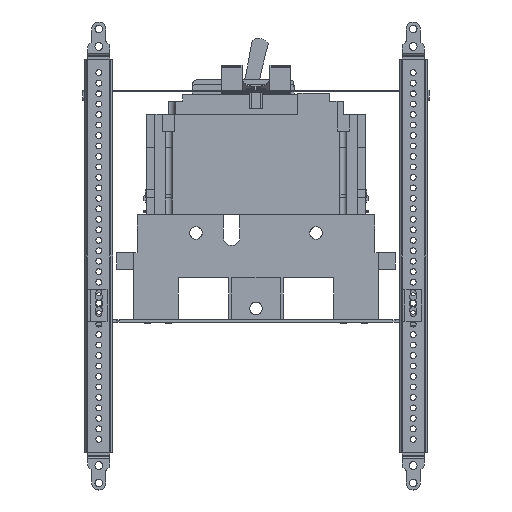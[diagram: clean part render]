
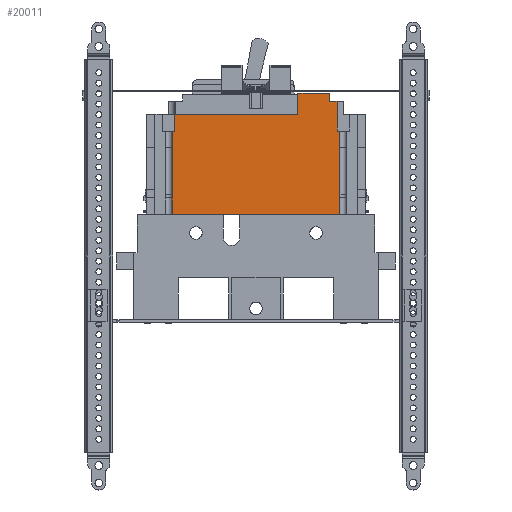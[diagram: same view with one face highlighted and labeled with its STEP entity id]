
A CAD part, left-side view. The second image highlights one B-rep face of the part: STEP entity #20011.
In plain terms, the highlighted planar face has unit normal (-1, 0, 0).
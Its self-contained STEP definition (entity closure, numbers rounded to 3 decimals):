
#9736=CARTESIAN_POINT(' ',(-214.311,-53.177,9.353));
#9737=VERTEX_POINT(' ',#9736);
#9751=CARTESIAN_POINT(' ',(-214.311,-53.177,9.353));
#9756=DIRECTION(' ',(0.,1.,0.));
#9761=VECTOR(' ',#9756,1.);
#9766=LINE('',#9751,#9761);
#9771=CARTESIAN_POINT(' ',(-214.311,59.243,9.353));
#9772=VERTEX_POINT(' ',#9771);
#9776=EDGE_CURVE(' ',#9737,#9772,#9766,.T.);
#11271=CARTESIAN_POINT(' ',(-214.311,62.945,9.853));
#11276=DIRECTION(' ',(0.,-1.,0.));
#11281=VECTOR(' ',#11276,1.);
#11286=LINE('',#11271,#11281);
#11291=CARTESIAN_POINT(' ',(-214.311,62.945,9.853));
#11292=VERTEX_POINT(' ',#11291);
#11296=CARTESIAN_POINT(' ',(-214.311,59.243,9.853));
#11297=VERTEX_POINT(' ',#11296);
#11301=EDGE_CURVE(' ',#11292,#11297,#11286,.T.);
#19426=CARTESIAN_POINT(' ',(-214.311,-53.177,9.353));
#19431=DIRECTION(' ',(0.,0.,1.));
#19436=VECTOR(' ',#19431,1.);
#19441=LINE('',#19426,#19436);
#19446=CARTESIAN_POINT(' ',(-214.311,-53.177,9.853));
#19447=VERTEX_POINT(' ',#19446);
#19451=EDGE_CURVE(' ',#9737,#19447,#19441,.T.);
#19516=DIRECTION(' ',(-1.,0.,0.));
#19521=CARTESIAN_POINT(' ',(-214.311,-56.879,9.353));
#19526=DIRECTION(' ',(0.,-0.,1.));
#19531=AXIS2_PLACEMENT_3D(' ',#19521,#19516,#19526);
#19536=PLANE('NONE',#19531);
#19541=CARTESIAN_POINT(' ',(-214.311,-56.879,69.284));
#19546=DIRECTION(' ',(0.,0.,-1.));
#19551=VECTOR(' ',#19546,1.);
#19556=LINE('',#19541,#19551);
#19561=CARTESIAN_POINT(' ',(-214.311,-56.879,69.284));
#19562=VERTEX_POINT(' ',#19561);
#19566=CARTESIAN_POINT(' ',(-214.311,-56.879,9.853));
#19567=VERTEX_POINT(' ',#19566);
#19571=EDGE_CURVE(' ',#19562,#19567,#19556,.T.);
#19576=ORIENTED_EDGE(' ',*,*,#19571,.F.);
#19581=CARTESIAN_POINT(' ',(-214.311,-54.979,69.284));
#19586=DIRECTION(' ',(0.,-1.,0.));
#19591=VECTOR(' ',#19586,1.);
#19596=LINE('',#19581,#19591);
#19601=CARTESIAN_POINT(' ',(-214.311,-54.979,69.284));
#19602=VERTEX_POINT(' ',#19601);
#19606=EDGE_CURVE(' ',#19602,#19562,#19596,.T.);
#19611=ORIENTED_EDGE(' ',*,*,#19606,.F.);
#19616=CARTESIAN_POINT(' ',(-214.311,-54.979,90.494));
#19621=DIRECTION(' ',(0.,0.,-1.));
#19626=VECTOR(' ',#19621,1.);
#19631=LINE('',#19616,#19626);
#19636=CARTESIAN_POINT(' ',(-214.311,-54.979,90.494));
#19637=VERTEX_POINT(' ',#19636);
#19641=EDGE_CURVE(' ',#19637,#19602,#19631,.T.);
#19646=ORIENTED_EDGE(' ',*,*,#19641,.F.);
#19651=CARTESIAN_POINT(' ',(-214.311,-49.482,90.494));
#19656=DIRECTION(' ',(0.,-1.,0.));
#19661=VECTOR(' ',#19656,1.);
#19666=LINE('',#19651,#19661);
#19671=CARTESIAN_POINT(' ',(-214.311,-49.482,90.494));
#19672=VERTEX_POINT(' ',#19671);
#19676=EDGE_CURVE(' ',#19672,#19637,#19666,.T.);
#19681=ORIENTED_EDGE(' ',*,*,#19676,.F.);
#19686=CARTESIAN_POINT(' ',(-214.311,-49.482,96.344));
#19691=DIRECTION(' ',(0.,0.,-1.));
#19696=VECTOR(' ',#19691,1.);
#19701=LINE('',#19686,#19696);
#19706=CARTESIAN_POINT(' ',(-214.311,-49.482,96.344));
#19707=VERTEX_POINT(' ',#19706);
#19711=EDGE_CURVE(' ',#19707,#19672,#19701,.T.);
#19716=ORIENTED_EDGE(' ',*,*,#19711,.F.);
#19721=CARTESIAN_POINT(' ',(-214.311,-26.984,96.344));
#19726=DIRECTION(' ',(0.,-1.,0.));
#19731=VECTOR(' ',#19726,1.);
#19736=LINE('',#19721,#19731);
#19741=CARTESIAN_POINT(' ',(-214.311,-26.984,96.344));
#19742=VERTEX_POINT(' ',#19741);
#19746=EDGE_CURVE(' ',#19742,#19707,#19736,.T.);
#19751=ORIENTED_EDGE(' ',*,*,#19746,.F.);
#19756=CARTESIAN_POINT(' ',(-214.311,-26.984,96.344));
#19761=DIRECTION(' ',(0.,0.,-1.));
#19766=VECTOR(' ',#19761,1.);
#19771=LINE('',#19756,#19766);
#19776=CARTESIAN_POINT(' ',(-214.311,-26.984,81.204));
#19777=VERTEX_POINT(' ',#19776);
#19781=EDGE_CURVE(' ',#19742,#19777,#19771,.T.);
#19786=ORIENTED_EDGE(' ',*,*,#19781,.T.);
#19791=CARTESIAN_POINT(' ',(-214.311,-26.984,81.204));
#19796=DIRECTION(' ',(0.,1.,0.));
#19801=VECTOR(' ',#19796,1.);
#19806=LINE('',#19791,#19801);
#19811=CARTESIAN_POINT(' ',(-214.311,61.043,81.204));
#19812=VERTEX_POINT(' ',#19811);
#19816=EDGE_CURVE(' ',#19777,#19812,#19806,.T.);
#19821=ORIENTED_EDGE(' ',*,*,#19816,.T.);
#19826=CARTESIAN_POINT(' ',(-214.311,61.043,81.204));
#19831=DIRECTION(' ',(0.,0.,-1.));
#19836=VECTOR(' ',#19831,1.);
#19841=LINE('',#19826,#19836);
#19846=CARTESIAN_POINT(' ',(-214.311,61.043,68.904));
#19847=VERTEX_POINT(' ',#19846);
#19851=EDGE_CURVE(' ',#19812,#19847,#19841,.T.);
#19856=ORIENTED_EDGE(' ',*,*,#19851,.T.);
#19861=CARTESIAN_POINT(' ',(-214.311,61.043,68.904));
#19866=DIRECTION(' ',(0.,1.,0.));
#19871=VECTOR(' ',#19866,1.);
#19876=LINE('',#19861,#19871);
#19881=CARTESIAN_POINT(' ',(-214.311,62.945,68.904));
#19882=VERTEX_POINT(' ',#19881);
#19886=EDGE_CURVE(' ',#19847,#19882,#19876,.T.);
#19891=ORIENTED_EDGE(' ',*,*,#19886,.T.);
#19896=CARTESIAN_POINT(' ',(-214.311,62.945,9.853));
#19901=DIRECTION(' ',(0.,0.,1.));
#19906=VECTOR(' ',#19901,1.);
#19911=LINE('',#19896,#19906);
#19916=EDGE_CURVE(' ',#11292,#19882,#19911,.T.);
#19921=ORIENTED_EDGE(' ',*,*,#19916,.F.);
#19926=ORIENTED_EDGE(' ',*,*,#11301,.T.);
#19931=CARTESIAN_POINT(' ',(-214.311,59.243,9.353));
#19936=DIRECTION(' ',(0.,0.,1.));
#19941=VECTOR(' ',#19936,1.);
#19946=LINE('',#19931,#19941);
#19951=EDGE_CURVE(' ',#9772,#11297,#19946,.T.);
#19956=ORIENTED_EDGE(' ',*,*,#19951,.F.);
#19961=ORIENTED_EDGE(' ',*,*,#9776,.F.);
#19966=ORIENTED_EDGE(' ',*,*,#19451,.T.);
#19971=CARTESIAN_POINT(' ',(-214.311,-56.879,9.853));
#19976=DIRECTION(' ',(0.,1.,0.));
#19981=VECTOR(' ',#19976,1.);
#19986=LINE('',#19971,#19981);
#19991=EDGE_CURVE(' ',#19567,#19447,#19986,.T.);
#19996=ORIENTED_EDGE(' ',*,*,#19991,.F.);
#20001=EDGE_LOOP(' ',(#19576,#19611,#19646,#19681,#19716,#19751,#19786,#19821,#19856,#19891,#19921,#19926,#19956,#19961,#19966,#19996));
#20006=FACE_OUTER_BOUND(' ',#20001,.T.);
#20011=ADVANCED_FACE('NONE',(#20006),#19536,.T.);
